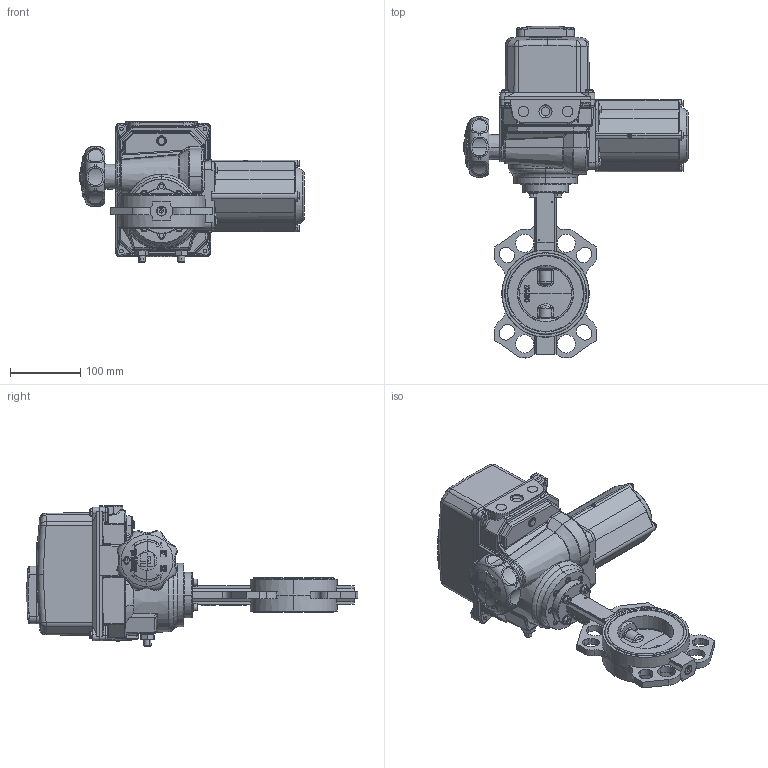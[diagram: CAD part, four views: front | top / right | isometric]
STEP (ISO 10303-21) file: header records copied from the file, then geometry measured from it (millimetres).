
FILE_DESCRIPTION (( 'STEP AP203' ), '1' );
FILE_NAME ('VPI-B04 DN80.step', '2016-09-29T14:37:38', ( 'TECOFI' ), ( '' ), 'SwSTEP 2.0', 'SolidWorks 2014', '' );
FILE_SCHEMA (( 'CONFIG_CONTROL_DESIGN' ));
Length unit declared in the file: millimetre
Products named in the file (1): VPI-B04 DN80
Bounding box: 319.25 x 472.24 x 199.8 mm (x, y, z)
Volume: 5437510.2 mm3; surface area: 358132.2 mm2
Topology: 14 solids, 14 shells, 2754 faces, 7100 edges, 4505 vertices
Faces by surface type: plane 1311, bspline 573, cylinder 491, cone 139, torus 132, sphere 108
Entity records: 115857 total; most frequent: CARTESIAN_POINT 52826, ORIENTED_EDGE 14078, DIRECTION 11768, EDGE_CURVE 7039, VERTEX_POINT 4505, AXIS2_PLACEMENT_3D 4246, VECTOR 3276, LINE 3276
